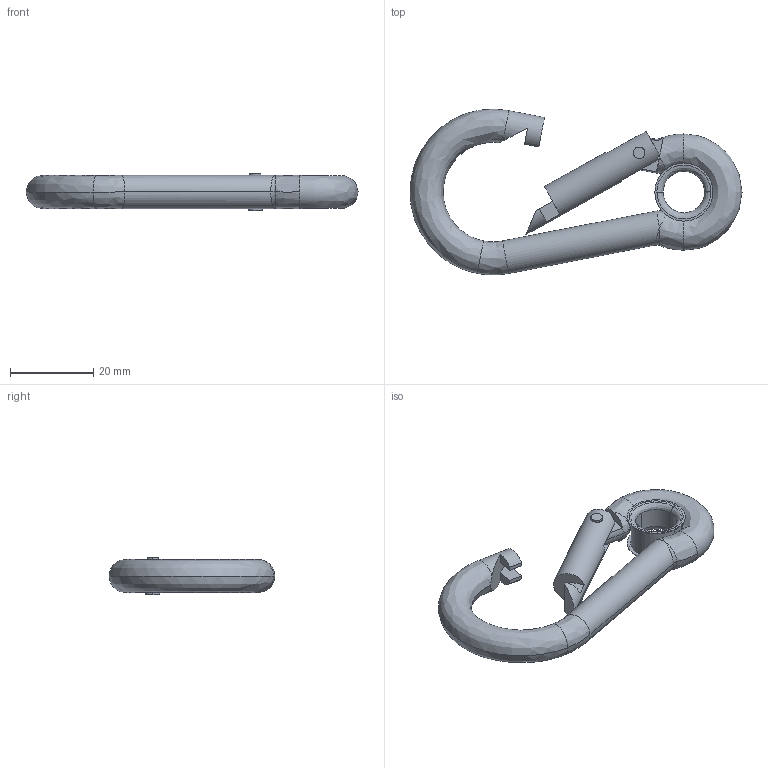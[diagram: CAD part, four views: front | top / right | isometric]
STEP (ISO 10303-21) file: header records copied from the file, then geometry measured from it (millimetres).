
FILE_DESCRIPTION (( 'STEP AP203' ), '1' );
FILE_NAME ('EB-922S-4.STEP', '2013-08-09T02:24:23', ( 'SDS' ), ( 'SDS' ), 'SwSTEP 2.0', 'SolidWorks 2002296', '' );
FILE_SCHEMA (( 'CONFIG_CONTROL_DESIGN' ));
Length unit declared in the file: millimetre
Products named in the file (3): EB-922S-4; EB-922S-42_蹬怮椔; EB-922S-41_蹬怮椔
Assembly tree (2 placements, depth 2):
  EB-922S-4
    EB-922S-42_蹬怮椔
    EB-922S-41_蹬怮椔
Bounding box: 80 x 39.96 x 9 mm (x, y, z)
Volume: 8926.6 mm3; surface area: 5780 mm2
Topology: 2 solids, 2 shells, 88 faces, 237 edges, 151 vertices
Faces by surface type: plane 35, cylinder 29, bspline 21, cone 3
Entity records: 3921 total; most frequent: CARTESIAN_POINT 1554, ORIENTED_EDGE 466, DIRECTION 411, EDGE_CURVE 233, AXIS2_PLACEMENT_3D 164, VERTEX_POINT 151, EDGE_LOOP 100, CIRCLE 92
